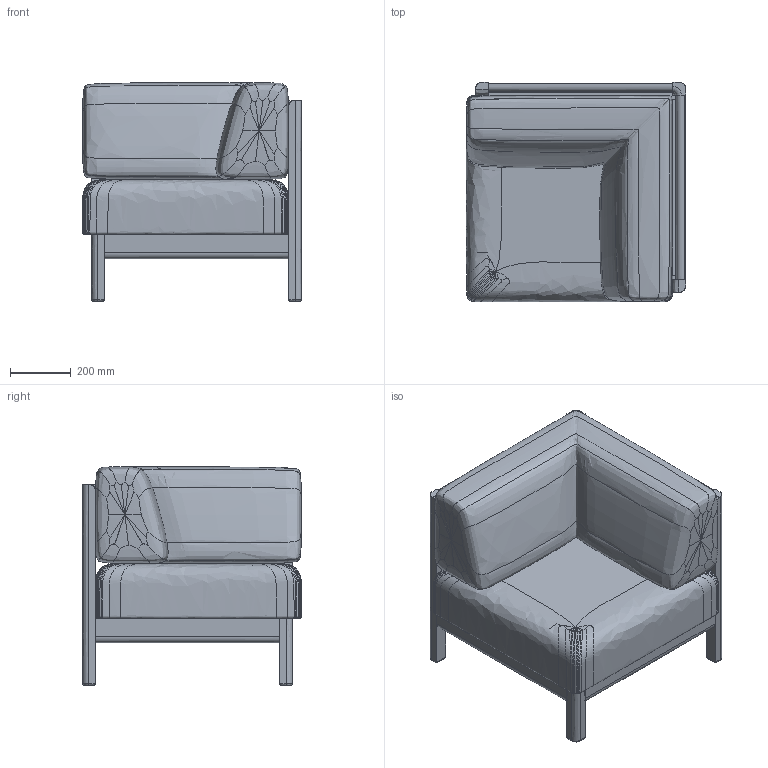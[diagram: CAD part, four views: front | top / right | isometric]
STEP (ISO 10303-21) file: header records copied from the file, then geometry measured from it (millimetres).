
FILE_DESCRIPTION(/* description */ (''),/* implementation_level */ '2;1');
FILE_NAME(/* name */ 'kinoshita_coccole_c467-2',/* time_stamp */ '2026-09-24T17:41:29+09:00',/* author */ (''),/* organization */ (''),/* preprocessor_version */ 'ST-DEVELOPER v16.5',/* originating_system */ '',/* authorisation */ '');
FILE_SCHEMA (('AUTOMOTIVE_DESIGN'));
Length unit declared in the file: millimetre
Products named in the file (1): Document
Bounding box: 720 x 720 x 718.45 mm (x, y, z)
Volume: 152998015.4 mm3; surface area: 3792468.9 mm2
Topology: 2 solids, 3 shells, 280 faces, 697 edges, 419 vertices
Faces by surface type: bspline 255, plane 25
Entity records: 82454 total; most frequent: CARTESIAN_POINT 78019, ORIENTED_EDGE 1395, EDGE_CURVE 698, B_SPLINE_CURVE_WITH_KNOTS 686, VERTEX_POINT 419, EDGE_LOOP 284, ADVANCED_FACE 280, FACE_OUTER_BOUND 280
